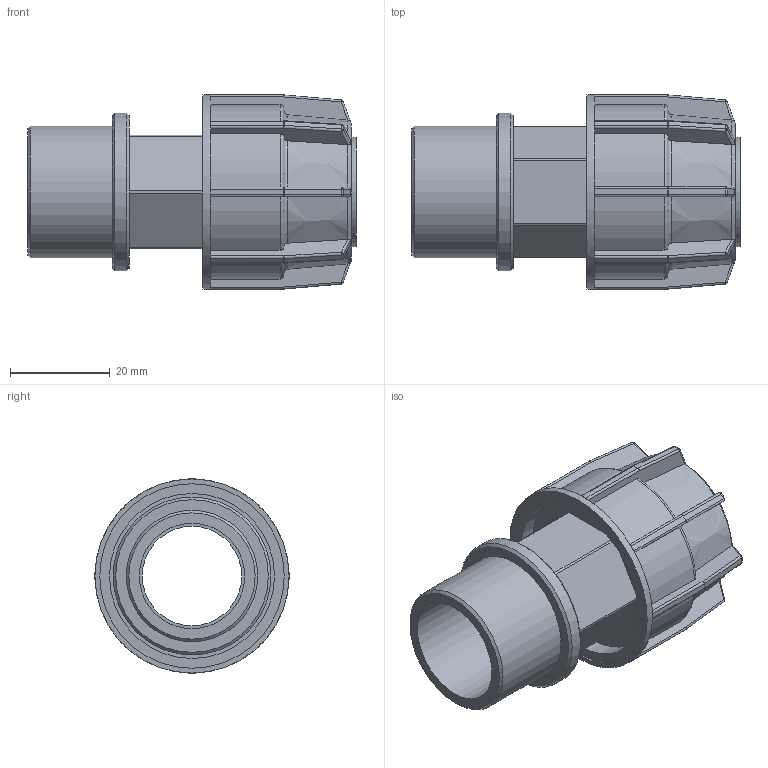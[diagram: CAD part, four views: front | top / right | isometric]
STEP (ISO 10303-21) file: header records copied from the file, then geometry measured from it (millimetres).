
FILE_DESCRIPTION(/* description */ ('PLASSON IRRIFIT ADAPTOR 20-3/4"M'),/* implementation_level */ '2;1');
FILE_NAME(/* name */ 'C:\Dropbox\KIMPROJECTS-Inventor\99-16-3568-Processing\Silver+MF ISRAEL\040207\040207020007.ipt.stp',/* time_stamp */ '2018-04-09T12:59:38+03:00',/* author */ ('KIM'),/* organization */ (''),/* preprocessor_version */ 'ST-DEVELOPER v15.6',/* originating_system */ 'Autodesk Inventor 2015',/* authorisation */ '');
FILE_SCHEMA (('AUTOMOTIVE_DESIGN { 1 0 10303 214 3 1 1 }'));
Length unit declared in the file: millimetre
Products named in the file (1): 040207020007
Bounding box: 66 x 39 x 39 mm (x, y, z)
Volume: 22036.5 mm3; surface area: 14497.8 mm2
Topology: 1 solids, 1 shells, 283 faces, 660 edges, 384 vertices
Faces by surface type: plane 142, cylinder 81, sphere 32, torus 17, cone 11
Full cylindrical faces by diameter (mm): 20 x1, 21.153 x1, 22 x1, 24 x1, 26.441 x1, 31.729 x1, 33.15 x1, 37.05 x1, 39 x1
Entity records: 8354 total; most frequent: CARTESIAN_POINT 2136, DIRECTION 1300, ORIENTED_EDGE 1280, EDGE_CURVE 640, AXIS2_PLACEMENT_3D 512, VERTEX_POINT 380, EDGE_LOOP 306, FACE_OUTER_BOUND 283
